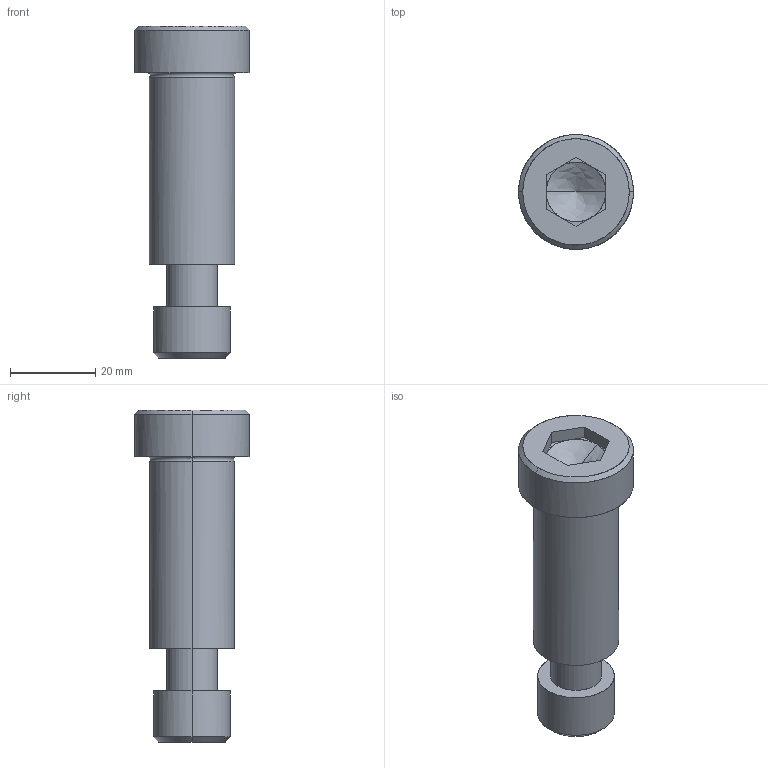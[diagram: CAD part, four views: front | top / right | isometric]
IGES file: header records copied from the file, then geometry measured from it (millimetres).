
Global section: file name: E:\UnigraphicsGraphicData\MISUMI_PRESS-PARTS\IGES\3d_sbtc20-45_05110_r00.igs; native system: NX V5.0; preprocessor: UGS NX IGES V5.0; author: MISUMI; date: 20110105.162449; units: millimetre
Bounding box: 27 x 27 x 78 mm (x, y, z)
Surface area: 8314.1 mm2 (no closed solid volume)
Topology: 0 solids, 0 shells, 52 faces, 294 edges, 290 vertices
Faces by surface type: bspline 52
